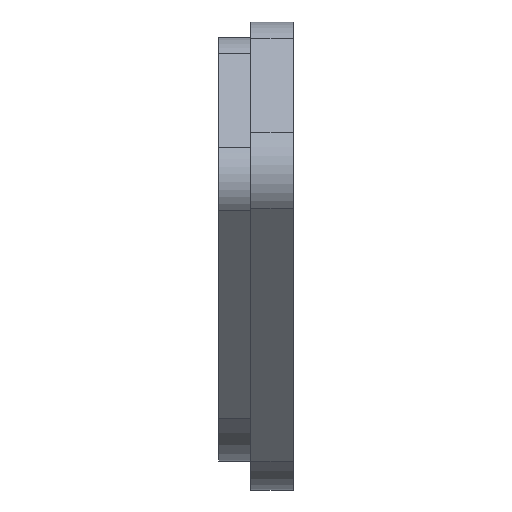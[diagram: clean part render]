
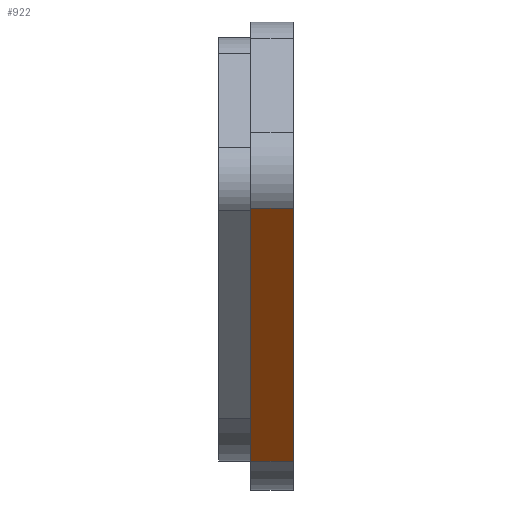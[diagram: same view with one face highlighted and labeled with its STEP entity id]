
A CAD part, left-side view. The second image highlights one B-rep face of the part: STEP entity #922.
In plain terms, the highlighted planar face has unit normal (-0.747, 0, -0.664).
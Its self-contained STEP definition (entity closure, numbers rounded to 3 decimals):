
#267 = AXIS2_PLACEMENT_3D ( 'NONE', #1311, #1473, #716 ) ;
#280 = LINE ( 'NONE', #1022, #1692 ) ;
#340 = LINE ( 'NONE', #2198, #1258 ) ;
#430 = CARTESIAN_POINT ( 'NONE',  ( -3017.63, 0., -634.832 ) ) ;
#615 = VERTEX_POINT ( 'NONE', #1119 ) ;
#648 = EDGE_LOOP ( 'NONE', ( #936, #1930, #1872, #1529 ) ) ;
#716 = DIRECTION ( 'NONE',  ( 0., -1., 0. ) ) ;
#814 = LINE ( 'NONE', #1535, #1863 ) ;
#854 = EDGE_CURVE ( 'NONE', #892, #2145, #280, .T. ) ;
#892 = VERTEX_POINT ( 'NONE', #1801 ) ;
#905 = PLANE ( 'NONE',  #267 ) ;
#922 = ADVANCED_FACE ( 'NONE', ( #1446 ), #905, .F. ) ;
#936 = ORIENTED_EDGE ( 'NONE', *, *, #2352, .T. ) ;
#1022 = CARTESIAN_POINT ( 'NONE',  ( -3017.63, 2., -634.832 ) ) ;
#1094 = VERTEX_POINT ( 'NONE', #430 ) ;
#1119 = CARTESIAN_POINT ( 'NONE',  ( -3028.153, 0., -622.994 ) ) ;
#1202 = DIRECTION ( 'NONE',  ( 0., -1., 0. ) ) ;
#1236 = LINE ( 'NONE', #2110, #1554 ) ;
#1258 = VECTOR ( 'NONE', #2213, 1000. ) ;
#1311 = CARTESIAN_POINT ( 'NONE',  ( -3017.63, 2., -634.832 ) ) ;
#1446 = FACE_OUTER_BOUND ( 'NONE', #648, .T. ) ;
#1473 = DIRECTION ( 'NONE',  ( 0.747, 0., 0.664 ) ) ;
#1529 = ORIENTED_EDGE ( 'NONE', *, *, #2200, .T. ) ;
#1535 = CARTESIAN_POINT ( 'NONE',  ( -3017.63, 0., -634.832 ) ) ;
#1554 = VECTOR ( 'NONE', #1202, 1000. ) ;
#1602 = EDGE_CURVE ( 'NONE', #2145, #615, #1236, .T. ) ;
#1692 = VECTOR ( 'NONE', #1752, 1000. ) ;
#1752 = DIRECTION ( 'NONE',  ( -0.664, 0., 0.747 ) ) ;
#1801 = CARTESIAN_POINT ( 'NONE',  ( -3017.63, 2., -634.832 ) ) ;
#1863 = VECTOR ( 'NONE', #2264, 1000. ) ;
#1872 = ORIENTED_EDGE ( 'NONE', *, *, #854, .F. ) ;
#1930 = ORIENTED_EDGE ( 'NONE', *, *, #1602, .F. ) ;
#1988 = CARTESIAN_POINT ( 'NONE',  ( -3028.153, 2., -622.994 ) ) ;
#2110 = CARTESIAN_POINT ( 'NONE',  ( -3028.153, 2., -622.994 ) ) ;
#2145 = VERTEX_POINT ( 'NONE', #1988 ) ;
#2198 = CARTESIAN_POINT ( 'NONE',  ( -3017.63, 2., -634.832 ) ) ;
#2200 = EDGE_CURVE ( 'NONE', #892, #1094, #340, .T. ) ;
#2213 = DIRECTION ( 'NONE',  ( 0., -1., 0. ) ) ;
#2264 = DIRECTION ( 'NONE',  ( -0.664, 0., 0.747 ) ) ;
#2352 = EDGE_CURVE ( 'NONE', #1094, #615, #814, .T. ) ;
